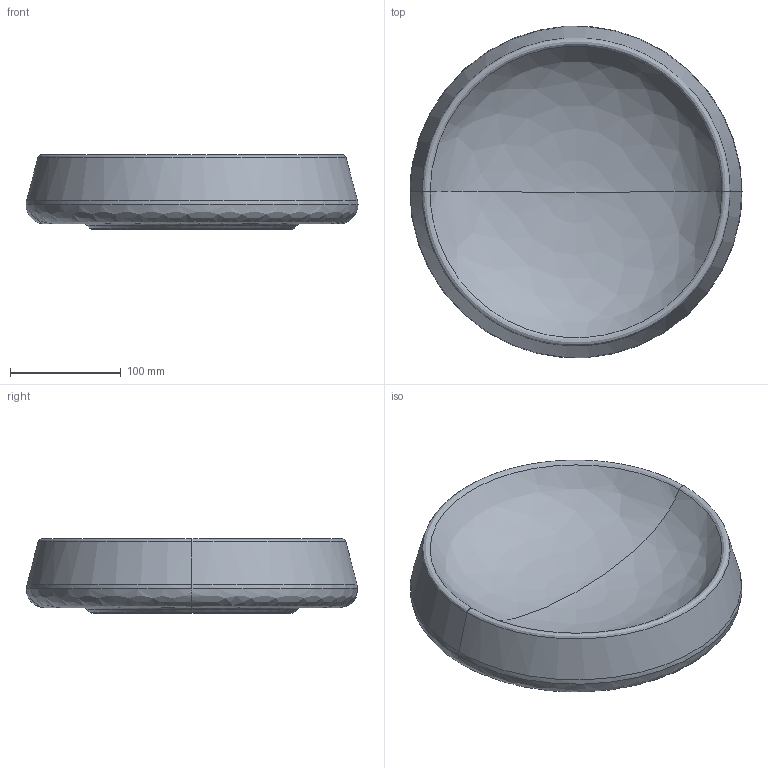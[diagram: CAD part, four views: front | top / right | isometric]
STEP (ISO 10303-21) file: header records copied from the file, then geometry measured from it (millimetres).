
FILE_DESCRIPTION(/* description */ (''),/* implementation_level */ '2;1');
FILE_NAME(/* name */ 'Pebosto bowl 30',/* time_stamp */ '2025-07-18T11:31:40+02:00',/* author */ (''),/* organization */ (''),/* preprocessor_version */ 'ST-DEVELOPER v16.5',/* originating_system */ 'Rhino 7.37',/* authorisation */ '');
FILE_SCHEMA (('AUTOMOTIVE_DESIGN'));
Length unit declared in the file: millimetre
Products named in the file (1): Document
Bounding box: 299.69 x 299.05 x 67.41 mm (x, y, z)
Volume: 2530117.3 mm3; surface area: 193416.1 mm2
Topology: 1 solids, 1 shells, 18 faces, 36 edges, 19 vertices
Faces by surface type: bspline 16, plane 2
Entity records: 928 total; most frequent: CARTESIAN_POINT 705, ORIENTED_EDGE 68, EDGE_CURVE 34, EDGE_LOOP 19, VERTEX_POINT 19, ADVANCED_FACE 18, FACE_OUTER_BOUND 18, B_SPLINE_CURVE_WITH_KNOTS 6
